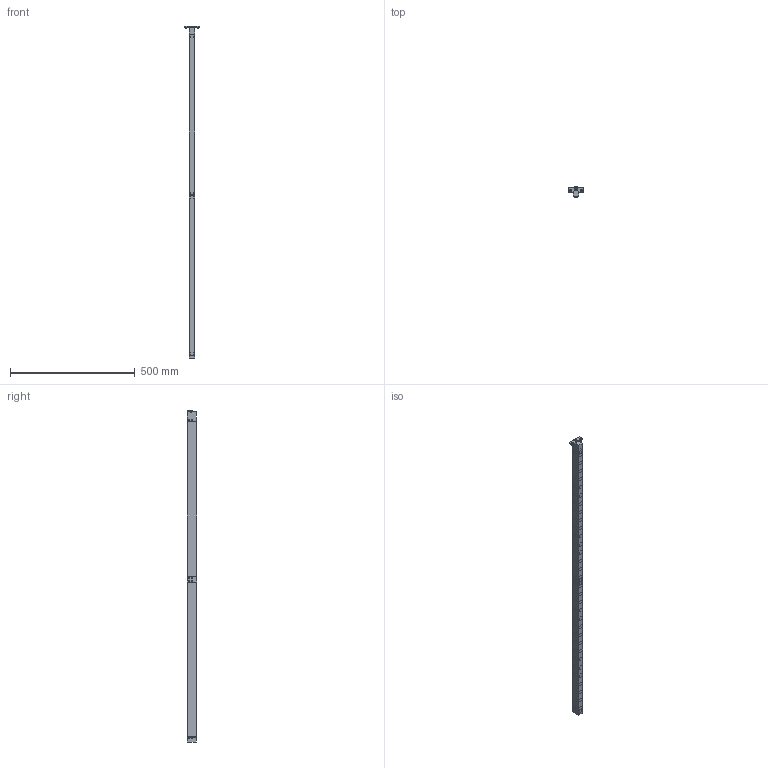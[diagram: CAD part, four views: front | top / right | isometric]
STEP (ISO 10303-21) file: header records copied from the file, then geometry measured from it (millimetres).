
FILE_DESCRIPTION(/* description */ (''),/* implementation_level */ '2;1');
FILE_NAME(/* name */ 'S:\EASCN Vault\Designs\Standard Part\DIE LIFTERS\EHB\EHB- 3D step\EHB22 - 3D step complete serie\EHB 22-32.stp',/* time_stamp */ '2019-11-21T15:09:20+08:00',/* author */ ('yue.yang'),/* organization */ (''),/* preprocessor_version */ 'ST-DEVELOPER v17',/* originating_system */ 'Autodesk Inventor 2019',/* authorisation */ '');
FILE_SCHEMA (('AUTOMOTIVE_DESIGN { 1 0 10303 214 3 1 1 }'));
Length unit declared in the file: millimetre
Products named in the file (1): EHB 22-32_Shrinkwrap_1
Bounding box: 58 x 37.8 x 1329 mm (x, y, z)
Volume: 851381.5 mm3; surface area: 340961.2 mm2
Topology: 115 solids, 115 shells, 1121 faces, 3082 edges, 2224 vertices
Faces by surface type: plane 402, cylinder 356, cone 171, torus 160, sphere 32
Full cylindrical faces by diameter (mm): 3 x3, 4.134 x1, 5 x27, 5.5 x5, 6 x34, 6.647 x2, 8 x2, 10 x8, 10.5 x1, 12.2 x32, 16 x32, 16.4 x32, 17.05 x32, 19.05 x32, 19.2 x32
Entity records: 41809 total; most frequent: CARTESIAN_POINT 10321, DIRECTION 6855, ORIENTED_EDGE 5960, AXIS2_PLACEMENT_3D 3017, EDGE_CURVE 2980, VERTEX_POINT 2224, CIRCLE 1893, EDGE_LOOP 1448
